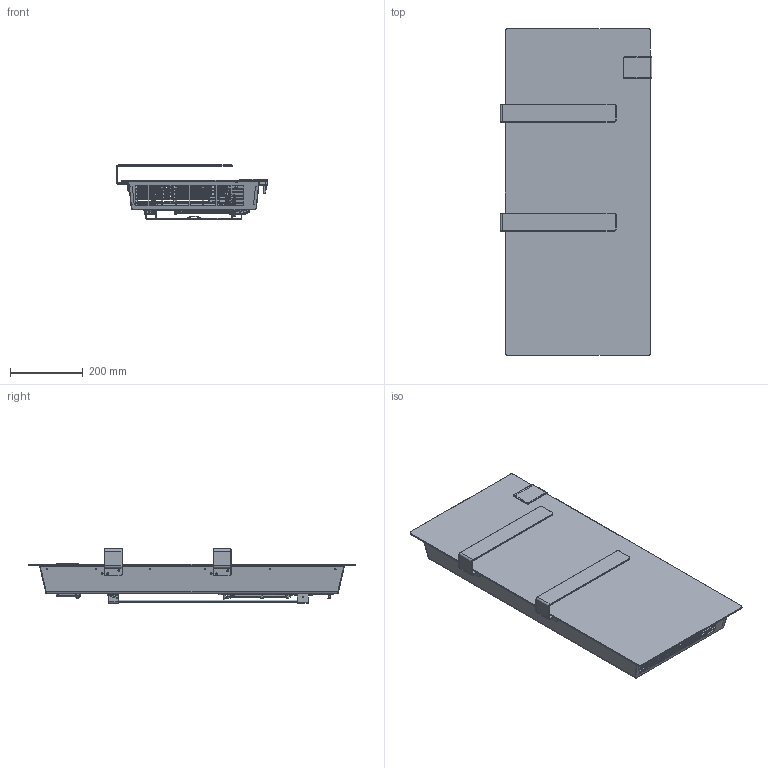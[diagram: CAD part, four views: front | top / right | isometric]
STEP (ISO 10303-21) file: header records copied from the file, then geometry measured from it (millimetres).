
FILE_DESCRIPTION(('FreeCAD Model'),'2;1');
FILE_NAME('Open CASCADE Shape Model','2026-06-11T07:37:32',(''),(''), 'Open CASCADE STEP processor 7.8','FreeCAD','Unknown');
FILE_SCHEMA(('AUTOMOTIVE_DESIGN { 1 0 10303 214 1 1 1 1 }'));
Length unit declared in the file: millimetre
Products named in the file (18): Unnamed; ONS_VETRO; SOLID004; ONS_GR-POSTERIORE_SOUFLERI_ASM; ONS_POSTERIORE_SOUF; DEK_AGGANCIO-SUPPORTO; ONS_GR-COMANDI_ASM; ONS_FONDO-SCATOLA-COMANDI; ONS_MASCHERINA-COMANDI; GLA_SOUFLERI_ASM; GLA_COPERCHIO-SOUFLERI; SLI_GR-FILTRO_ASM; SLI_FILTRO-CORPO; ONS_GR-SUPPORTO-MURALE_SOUFLERI_ASM; ONS_SUPPORTO-MURALE-SOUFLE; ONS_TRAVERSA-SUPPORTO-SOUF; ONS_SUPPORTO-MURALE-IN_SOUF; ONS_BARRA-PORTASALVIETTE
Assembly tree (19 placements, depth 3):
  Unnamed
    ONS_VETRO
      SOLID004
    ONS_GR-POSTERIORE_SOUFLERI_ASM
      ONS_POSTERIORE_SOUF
      DEK_AGGANCIO-SUPPORTO  x2
    ONS_GR-COMANDI_ASM
      ONS_FONDO-SCATOLA-COMANDI
    ONS_MASCHERINA-COMANDI
    GLA_SOUFLERI_ASM
      GLA_COPERCHIO-SOUFLERI
    SLI_GR-FILTRO_ASM
      SLI_FILTRO-CORPO
    ONS_GR-SUPPORTO-MURALE_SOUFLERI_ASM
      ONS_SUPPORTO-MURALE-SOUFLE
      ONS_TRAVERSA-SUPPORTO-SOUF
      ONS_SUPPORTO-MURALE-IN_SOUF
    ONS_BARRA-PORTASALVIETTE  x2
Bounding box: 418.4 x 900 x 148.7 mm (x, y, z)
Volume: 2257338.3 mm3; surface area: 1981018.8 mm2
Topology: 13 solids, 13 shells, 3827 faces, 10171 edges, 6385 vertices
Faces by surface type: plane 1901, cylinder 959, bspline 379, cone 333, torus 195, revolution 34, sphere 17, extrusion 9
Entity records: 140936 total; most frequent: CARTESIAN_POINT 50768, ORIENTED_EDGE 19890, DIRECTION 16780, EDGE_CURVE 9945, VERTEX_POINT 6257, VECTOR 5986, LINE 5977, AXIS2_PLACEMENT_3D 5380
